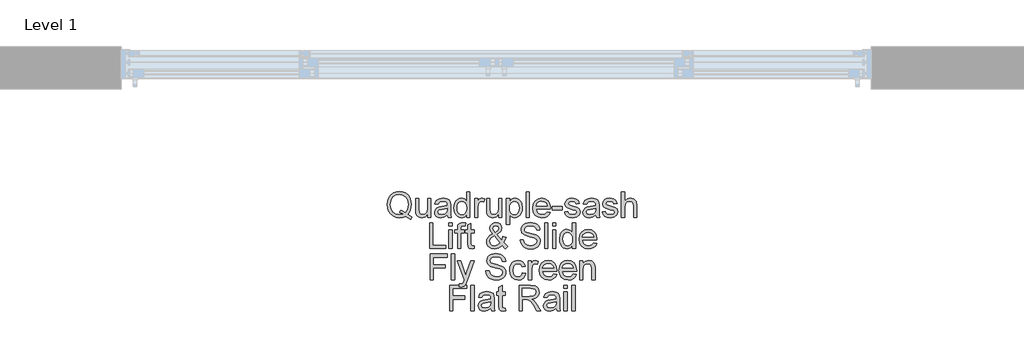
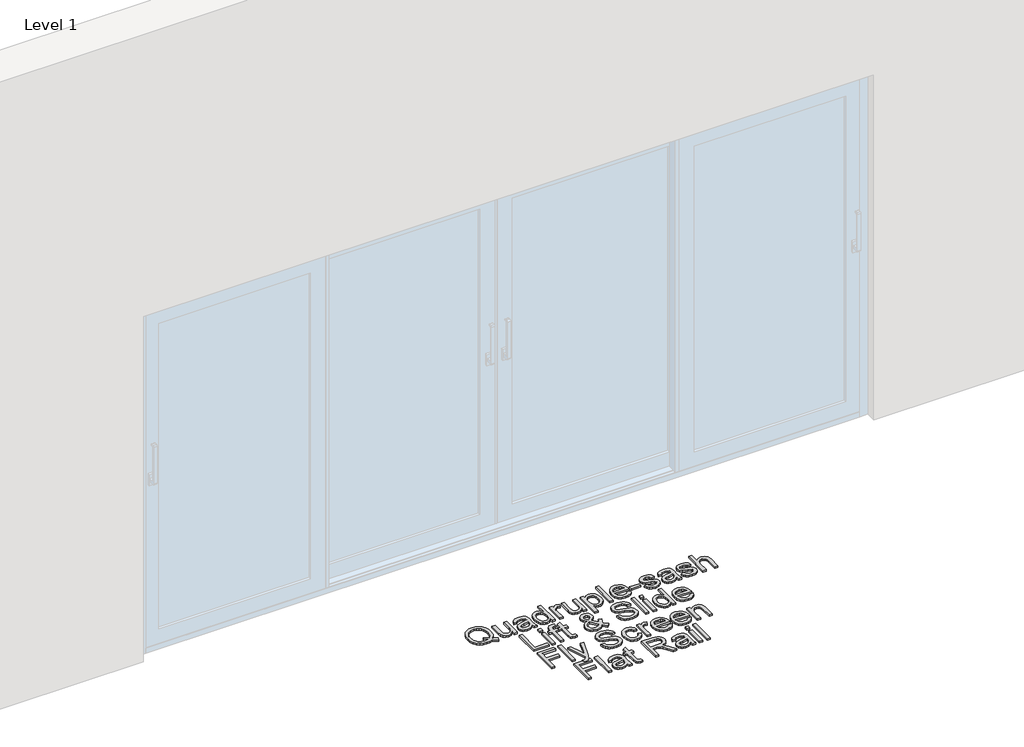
# One storey, part 5 of 11: 1 proxy.
"""IFC4 building model written with IfcOpenShell, lengths in millimetres."""

import ifcopenshell
import ifcopenshell.guid

model = None  # the IFC model being written
_history = None  # IfcOwnerHistory: only IFC2X3 demands one
_inside = {}  # id of a spatial element -> (the spatial element, [elements in it])
_under = {}  # id of a project, library or spatial element -> (it, [spatial elements below it])
_declared = {}  # id of a project -> (the project, [libraries it declares])
_typed = {}  # id of a type object -> (the type object, [elements of that type])
_made_of = {}  # id of a material, layer set ... -> (it, [elements and type objects made of it])


def new_model(schema):
    """Start an empty IFC model of exactly this schema.

    Asked for "IFC4X3", IfcOpenShell would pick the latest addendum, in which some entities
    have other attributes; the version numbers below select the first issue.
    IFC2X3 requires an IfcOwnerHistory on every rooted entity: one is made here for all.
    """
    global model, _history
    if schema == "IFC4X3":
        model = ifcopenshell.file(schema_version=(4, 3, 0, 0))
    else:
        model = ifcopenshell.file(schema=schema)
    _inside.clear()
    _under.clear()
    _declared.clear()
    _typed.clear()
    _made_of.clear()
    _history = None
    if model.schema == "IFC2X3":
        org = make("IfcOrganization", Name="unknown")
        user = make(
            "IfcPersonAndOrganization",
            ThePerson=make("IfcPerson", FamilyName="unknown"),
            TheOrganization=org,
        )
        app = make(
            "IfcApplication",
            ApplicationDeveloper=org,
            Version="unknown",
            ApplicationFullName="unknown",
            ApplicationIdentifier="unknown",
        )
        _history = make(
            "IfcOwnerHistory",
            OwningUser=user,
            OwningApplication=app,
            ChangeAction="ADDED",
            CreationDate=0,
        )
    return model


def make(cls, **values):
    """One entity of the class cls with the attributes given. An attribute that is None is left unset."""
    return model.create_entity(
        cls, **{name: value for name, value in values.items() if value is not None}
    )


def rooted(cls, **values):
    """An entity with a GlobalId (a new one), such as an element, a storey or a relation."""
    return make(cls, GlobalId=ifcopenshell.guid.new(), OwnerHistory=_history, **values)


def si_unit(unit_type, name, prefix=None):
    """IfcSIUnit, for example si_unit("LENGTHUNIT", "METRE", prefix="MILLI")."""
    return make("IfcSIUnit", UnitType=unit_type, Prefix=prefix, Name=name)


def assignment(units):
    """IfcUnitAssignment: the units of a project."""
    return None if units is None else make("IfcUnitAssignment", Units=units)


def point(xyz):
    """IfcCartesianPoint."""
    return None if xyz is None else make("IfcCartesianPoint", Coordinates=xyz)


def direction(xyz):
    """IfcDirection."""
    return None if xyz is None else make("IfcDirection", DirectionRatios=xyz)


def frame(location, z_axis=None, x_axis=None):
    """IfcAxis2Placement3D, a coordinate frame: its origin and axes. An axis left out is left unset."""
    return make(
        "IfcAxis2Placement3D",
        Location=point(location),
        Axis=direction(z_axis),
        RefDirection=direction(x_axis),
    )


def origin():
    """The frame at (0, 0, 0) with its axes left unset."""
    return frame((0.0, 0.0, 0.0))


def origin_with_axes():
    """The frame at (0, 0, 0) with the z axis (0, 0, 1) and the x axis (1, 0, 0) written out."""
    return frame((0.0, 0.0, 0.0), z_axis=(0.0, 0.0, 1.0), x_axis=(1.0, 0.0, 0.0))


def place(relative_to, where):
    """IfcLocalPlacement: puts the frame where relative to a parent placement (None: the world)."""
    return make(
        "IfcLocalPlacement", PlacementRelTo=relative_to, RelativePlacement=where
    )


def context(
    kind, dimensions, precision=None, world=None, true_north=None, identifier=None
):
    """IfcGeometricRepresentationContext, for example the 3D "Model" context."""
    return make(
        "IfcGeometricRepresentationContext",
        ContextIdentifier=identifier,
        ContextType=kind,
        CoordinateSpaceDimension=dimensions,
        Precision=precision,
        WorldCoordinateSystem=world,
        TrueNorth=true_north,
    )


def project(units=None, contexts=None):
    """IfcProject with its units and contexts."""
    return rooted(
        "IfcProject",
        Name="project",
        RepresentationContexts=contexts,
        UnitsInContext=assignment(units),
    )


def spatial(cls, under=None, at=None, **own):
    """A site, building, storey or space (cls), placed at a placement, below another one or the project."""
    s = rooted(cls, ObjectPlacement=at, **own)
    if under is not None:
        _under.setdefault(under.id(), (under, []))[1].append(s)
    return s


def polyline(points):
    """IfcPolyline through the points."""
    return make("IfcPolyline", Points=[point(p) for p in points])


def outline(outer, holes=None, kind="AREA"):
    """IfcArbitraryClosedProfileDef: a profile drawn as a closed curve; with holes, ...WithVoids."""
    if holes is None:
        return make("IfcArbitraryClosedProfileDef", ProfileType=kind, OuterCurve=outer)
    return make(
        "IfcArbitraryProfileDefWithVoids",
        ProfileType=kind,
        OuterCurve=outer,
        InnerCurves=holes,
    )


def extrude(swept, where, along, depth):
    """IfcExtrudedAreaSolid: the profile swept, set in the frame where, extruded along a direction by depth."""
    return make(
        "IfcExtrudedAreaSolid",
        SweptArea=swept,
        Position=where,
        ExtrudedDirection=direction(along),
        Depth=depth,
    )


def shape(context_of_items, identifier, shape_type, items):
    """IfcShapeRepresentation: the items that make up one representation, for example the "Body"."""
    return make(
        "IfcShapeRepresentation",
        ContextOfItems=context_of_items,
        RepresentationIdentifier=identifier,
        RepresentationType=shape_type,
        Items=items,
    )


def made_of(thing, what):
    """Note that an element or type object is made of a material, layer set ...; save() writes the relation."""
    if what is not None:
        _made_of.setdefault(what.id(), (what, []))[1].append(thing)
    return thing


def element(
    cls,
    number,
    at=None,
    inside=None,
    cuts=None,
    type_object=None,
    material=None,
    context=None,
    identifier="Body",
    shape_type=None,
    held_by="IfcProductDefinitionShape",
    body=None,
    shapes=None,
    **own,
):
    """One element of the class cls, such as IfcWall. Its Tag is "e" and its number.

    at: its placement. inside: the storey or other place that contains it. cuts: it is an
    opening in that element (IfcRelVoidsElement). A single representation is given by context,
    identifier, shape_type and body (its items); several are given by shapes. held_by: the class
    of the entity that holds the representations. save() writes the other relations.
    """
    e = rooted(cls, Tag="e%d" % number, ObjectPlacement=at, **own)
    if body is not None:
        shapes = [shape(context, identifier, shape_type, body)]
    if shapes is not None:
        e.Representation = make(held_by, Representations=shapes)
    if inside is not None:
        _inside.setdefault(inside.id(), (inside, []))[1].append(e)
    if cuts is not None:
        rooted(
            "IfcRelVoidsElement", RelatingBuildingElement=cuts, RelatedOpeningElement=e
        )
    if type_object is not None:
        _typed.setdefault(type_object.id(), (type_object, []))[1].append(e)
    return made_of(e, material)


def aggregate(whole, parts):
    """IfcRelAggregates: a whole, such as a stair, and the parts it consists of."""
    return rooted("IfcRelAggregates", RelatingObject=whole, RelatedObjects=parts)


def save(model, path):
    """Write the relations noted so far, then the file.

    IfcRelAggregates (storeys below a building ...), IfcRelContainedInSpatialStructure (elements
    in a storey), IfcRelDefinesByType, IfcRelAssociatesMaterial and IfcRelDeclares: one each for
    every whole, place, type object, material and project.
    """
    for whole, parts in _under.values():
        aggregate(whole, parts)
    for where, things in _inside.values():
        rooted(
            "IfcRelContainedInSpatialStructure",
            RelatedElements=things,
            RelatingStructure=where,
        )
    for kind, things in _typed.values():
        rooted("IfcRelDefinesByType", RelatedObjects=things, RelatingType=kind)
    for what, things in _made_of.values():
        rooted("IfcRelAssociatesMaterial", RelatedObjects=things, RelatingMaterial=what)
    for by, libraries in _declared.values():
        rooted("IfcRelDeclares", RelatingContext=by, RelatedDefinitions=libraries)
    model.write(path)


model = new_model("IFC4")

# Units and contexts
model_context = context("Model", 3, world=origin())
ifc_project = project(units=[si_unit("LENGTHUNIT", "METRE", prefix="MILLI")], contexts=[model_context])

# Site, building, storey
site = spatial("IfcSite", under=ifc_project)
building = spatial("IfcBuilding", under=site)
storey = spatial("IfcBuildingStorey", under=building, Name="Level 1", Elevation=0.0)

# Proxy
placement = place(None, origin())
element("IfcBuildingElementProxy", 1, Name="150mm Arial", ObjectType="150mm Arial", at=placement, inside=storey, context=model_context, shape_type="SweptSolid", body=[
    extrude(outline(polyline([(1259.3241759, -5879.5997474), (1282.6846826, -5895.3083086), (1277.6079111, -5909.1038834), (1246.5954589, -5891.4823358), (1229.1670494, -5897.8834825), (1209.9912004, -5900.0171981), (1190.7233809, -5897.5569873), (1173.3133655, -5890.1763547), (1158.7314429, -5878.3397515), (1147.9479019, -5862.5116287), (1141.2846392, -5843.5611074), (1139.0635517, -5822.3573089), (1141.2800407, -5801.1351163), (1147.9295078, -5781.9086836), (1158.671662, -5765.855233), (1173.1662127, -5754.151987), (1190.5118487, -5747.0058793), (1209.8072594, -5744.6238433), (1229.2544213, -5747.0610616), (1246.6874294, -5754.3727162), (1261.1589874, -5766.0713637), (1271.7217992, -5781.6695603), (1278.1781282, -5800.3395715), (1280.3302379, -5821.2536629), (1275.1063135, -5854.1791015), (1268.548817, -5867.8367206), (1259.3241759, -5879.5997474)]), holes=[polyline([(1215.1783365, -5854.5469835), (1231.0156564, -5860.534263), (1243.7995557, -5868.8575931), (1257.0708987, -5849.4334238), (1261.4946797, -5822.2101561), (1259.9311812, -5805.6324737), (1255.2406858, -5791.2896744), (1247.5381565, -5779.5450417), (1236.9385565, -5770.7618591), (1224.1592557, -5765.2850159), (1209.917624, -5763.4594015), (1189.3898086, -5767.152017), (1172.6879661, -5778.2298636), (1161.5963239, -5796.6377589), (1157.8991099, -5822.3205207), (1161.5549372, -5847.4514595), (1172.5224192, -5865.9697195), (1189.173678, -5877.3786598), (1209.8808358, -5881.18164), (1230.1511337, -5877.318879), (1210.3222942, -5868.9679577), (1215.1783365, -5854.5469835)])]), origin_with_axes(), (0.0, 0.0, 1.0), 10.0),
    extrude(outline(polyline([(1376.8624734, -5897.6627533), (1376.8624734, -5878.6432542), (1362.1104054, -5894.6737121), (1342.870177, -5900.0171981), (1325.156659, -5896.2648018), (1312.9429767, -5886.8470227), (1307.3327763, -5872.9778715), (1306.2291303, -5855.4666885), (1306.2291303, -5787.0038492), (1325.0646885, -5787.0038492), (1325.0646885, -5846.6007324), (1326.2051227, -5865.8041726), (1333.6547331, -5877.0797557), (1347.6894312, -5881.18164), (1363.4163865, -5876.9877852), (1373.8090528, -5865.5650493), (1376.8624734, -5844.5773814), (1376.8624734, -5787.0038492), (1395.6980315, -5787.0038492), (1395.6980315, -5897.6627533), (1376.8624734, -5897.6627533)])), origin_with_axes(), (0.0, 0.0, 1.0), 10.0),
    extrude(outline(polyline([(1492.2302671, -5883.5360847), (1473.964926, -5896.30159), (1453.7865986, -5900.0171981), (1438.0458477, -5897.782315), (1426.4345722, -5891.0776656), (1419.2746689, -5880.8965314), (1416.8880345, -5868.2321937), (1420.493278, -5853.3329729), (1429.9662394, -5842.5172423), (1443.1548089, -5836.3368247), (1459.4519813, -5833.5041334), (1492.1199025, -5827.0294103), (1492.2302671, -5822.8355555), (1490.933483, -5814.4294519), (1487.0431309, -5808.9296161), (1478.3427218, -5804.846126), (1466.22101, -5803.4849626), (1447.1647227, -5807.1086002), (1438.0780374, -5819.966076), (1419.2424792, -5817.6116312), (1427.3910654, -5799.2175314), (1443.7986024, -5788.438589), (1468.6490312, -5784.6494044), (1491.476109, -5787.9971306), (1504.3703729, -5796.4032342), (1510.1461202, -5809.1871335), (1511.0658252, -5825.6682469), (1511.0658252, -5849.10233), (1512.0223184, -5881.8254334), (1515.7747148, -5897.6627533), (1496.9391566, -5897.6627533), (1492.2302671, -5883.5360847)]), holes=[polyline([(1492.2302671, -5845.8649684), (1461.8432143, -5851.6407157), (1445.6380124, -5854.6941363), (1438.2987666, -5859.6605432), (1435.7235926, -5866.9078185), (1441.333793, -5877.0981498), (1457.7965123, -5881.18164), (1476.8527997, -5876.6750855), (1489.1400583, -5865.7673844), (1492.1199025, -5851.1992574), (1492.2302671, -5845.8649684)])]), origin_with_axes(), (0.0, 0.0, 1.0), 10.0),
    extrude(outline(polyline([(1605.243616, -5897.6627533), (1605.243616, -5879.894053), (1592.7816134, -5894.9864118), (1575.555539, -5900.0171981), (1563.3786449, -5898.1961822), (1552.2318205, -5892.7331346), (1542.7956473, -5884.0097328), (1535.7507071, -5872.4076544), (1531.3637143, -5858.3959489), (1529.9013834, -5842.4436659), (1535.2908546, -5812.4612833), (1542.0230951, -5800.5694978), (1551.4408742, -5791.8231033), (1562.8314205, -5786.4428292), (1575.4819626, -5784.6494044), (1592.8459928, -5789.7813583), (1605.243616, -5803.1170806), (1605.243616, -5746.9782881), (1624.0791741, -5746.9782881), (1624.0791741, -5897.6627533), (1605.243616, -5897.6627533)]), holes=[polyline([(1548.7369415, -5842.3700895), (1550.8614601, -5859.4076244), (1557.2350156, -5871.5247376), (1566.4964449, -5878.7674144), (1577.2845844, -5881.18164), (1588.0681253, -5878.877779), (1597.0950298, -5871.966196), (1603.2064694, -5860.3181323), (1605.243616, -5843.8048292), (1603.1696812, -5825.7510203), (1596.947877, -5813.2338354), (1587.6910463, -5805.9221808), (1576.5120322, -5803.4849626), (1565.6135281, -5805.8256118), (1556.6831926, -5812.8475594), (1550.7235043, -5824.9094903), (1548.7369415, -5842.3700895)])]), origin_with_axes(), (0.0, 0.0, 1.0), 10.0),
    extrude(outline(polyline([(1652.3325114, -5897.6627533), (1652.3325114, -5787.0038492), (1668.8136248, -5787.0038492), (1668.8136248, -5803.374598), (1680.5122722, -5788.2914362), (1692.2844961, -5784.6494044), (1711.1936306, -5790.4619399), (1704.9028485, -5807.3477235), (1691.6590967, -5803.4849626), (1681.0089129, -5807.2005707), (1674.2214901, -5817.5012666), (1671.1680695, -5839.5006099), (1671.1680695, -5897.6627533), (1652.3325114, -5897.6627533)])), origin_with_axes(), (0.0, 0.0, 1.0), 10.0),
    extrude(outline(polyline([(1793.5991975, -5897.6627533), (1793.5991975, -5878.6432542), (1778.8471295, -5894.6737121), (1759.6069012, -5900.0171981), (1741.8933831, -5896.2648018), (1729.6797009, -5886.8470227), (1724.0695004, -5872.9778715), (1722.9658544, -5855.4666885), (1722.9658544, -5787.0038492), (1741.8014126, -5787.0038492), (1741.8014126, -5846.6007324), (1742.9418468, -5865.8041726), (1750.3914572, -5877.0797557), (1764.4261553, -5881.18164), (1780.1531106, -5876.9877852), (1790.545777, -5865.5650493), (1793.5991975, -5844.5773814), (1793.5991975, -5787.0038492), (1812.4347557, -5787.0038492), (1812.4347557, -5897.6627533), (1793.5991975, -5897.6627533)])), origin_with_axes(), (0.0, 0.0, 1.0), 10.0),
    extrude(outline(polyline([(1838.3336481, -5940.0427592), (1838.3336481, -5787.0038492), (1857.1692063, -5787.0038492), (1857.1692063, -5805.4715254), (1870.1922289, -5789.8549347), (1887.7769883, -5784.6494044), (1900.5149024, -5786.4704203), (1911.6525298, -5791.9334679), (1920.720821, -5800.7074535), (1927.2507264, -5812.4612833), (1932.5114389, -5841.4871727), (1931.0261153, -5857.5958055), (1926.5701447, -5872.0029842), (1919.2860812, -5883.9775431), (1909.3164791, -5892.7883169), (1897.7052036, -5898.2099778), (1885.4961199, -5900.0171981), (1869.106977, -5895.1795499), (1857.1692063, -5882.9474735), (1857.1692063, -5940.0427592), (1838.3336481, -5940.0427592)]), holes=[polyline([(1857.1692063, -5843.2162181), (1859.2063528, -5860.1020016), (1865.3177925, -5871.9110137), (1874.3354999, -5878.8639834), (1885.0914497, -5881.18164), (1896.0221435, -5878.7812099), (1905.2697772, -5871.5799199), (1911.5743549, -5859.3386465), (1913.6758807, -5841.8182665), (1911.6249386, -5825.0244534), (1905.4721123, -5813.0498945), (1896.4682004, -5805.8761955), (1885.8640019, -5803.4849626), (1875.2184167, -5806.0279469), (1865.8696155, -5813.6568997), (1859.3443086, -5826.1326979), (1857.1692063, -5843.2162181)])]), origin_with_axes(), (0.0, 0.0, 1.0), 10.0),
    extrude(outline(polyline([(1953.7014418, -5897.6627533), (1953.7014418, -5746.9782881), (1972.537, -5746.9782881), (1972.537, -5897.6627533), (1953.7014418, -5897.6627533)])), origin_with_axes(), (0.0, 0.0, 1.0), 10.0),
    extrude(outline(polyline([(2078.2662854, -5864.7005266), (2096.7339615, -5867.0549713), (2090.079896, -5880.9701078), (2079.4619019, -5891.3719712), (2065.1191026, -5897.8558914), (2047.2906214, -5900.0171981), (2025.1901105, -5896.2877944), (2008.1847653, -5885.0995832), (1997.3414435, -5867.1791315), (1993.7270029, -5843.2530063), (1997.3782317, -5818.5221391), (2008.3319181, -5800.0268718), (2025.1073371, -5788.4937713), (2046.2237636, -5784.6494044), (2066.6826011, -5788.4845742), (2083.0303572, -5799.9900836), (2093.7495189, -5818.4485627), (2097.3225727, -5843.1426417), (2097.2122081, -5848.2194132), (2012.5625611, -5848.2194132), (2015.8229152, -5862.3184907), (2023.3966858, -5872.6835659), (2034.3273796, -5879.0571214), (2047.6585034, -5881.18164), (2066.1261795, -5877.2453026), (2078.2662854, -5864.7005266)]), holes=[polyline([(2012.5625611, -5829.383855), (2078.4870146, -5829.383855), (2075.9394318, -5819.4326471), (2070.9454337, -5812.3141305), (2059.9641561, -5805.6922545), (2046.1501872, -5803.4849626), (2033.4536599, -5805.2461976), (2022.9552274, -5810.5299028), (2015.6573683, -5818.765861), (2012.5625611, -5829.383855)])]), origin_with_axes(), (0.0, 0.0, 1.0), 10.0),
    extrude(outline(polyline([(2106.7403518, -5852.9283027), (2106.7403518, -5834.0927446), (2165.601471, -5834.0927446), (2165.601471, -5852.9283027), (2106.7403518, -5852.9283027)])), origin_with_axes(), (0.0, 0.0, 1.0), 10.0),
    extrude(outline(polyline([(2179.7281397, -5864.7005266), (2198.5636978, -5862.3460818), (2201.5343449, -5870.4026975), (2207.2825011, -5876.3255976), (2227.2584934, -5881.18164), (2246.4619336, -5876.7302678), (2252.7159275, -5866.2824192), (2251.143232, -5861.4815591), (2246.4251454, -5857.8211333), (2227.0377642, -5852.4500561), (2198.6740624, -5843.2346122), (2186.2948333, -5832.4740638), (2182.0825844, -5817.2805374), (2185.4670988, -5803.2458393), (2194.7009369, -5792.5220791), (2206.6754958, -5786.9486669), (2222.8806977, -5784.6494044), (2245.799746, -5788.3466185), (2260.367873, -5798.3530087), (2266.8425961, -5815.2571864), (2248.007038, -5817.6116312), (2240.9253096, -5807.2189648), (2224.3522257, -5803.4849626), (2206.3260079, -5807.0534179), (2200.9181426, -5815.367551), (2203.1622228, -5820.8489927), (2210.1887689, -5825.0060593), (2226.4123648, -5829.015973), (2254.0586968, -5837.8819291), (2266.8977784, -5847.9251076), (2271.5514857, -5864.2958564), (2266.088438, -5882.3220741), (2250.3246945, -5895.4002791), (2227.000976, -5900.0171981), (2208.009068, -5897.791512), (2194.1491139, -5891.1144538), (2184.8968817, -5880.0595999), (2179.7281397, -5864.7005266)])), origin_with_axes(), (0.0, 0.0, 1.0), 10.0),
    extrude(outline(polyline([(2363.3748317, -5883.5360847), (2345.1094906, -5896.30159), (2324.9311632, -5900.0171981), (2309.1904123, -5897.782315), (2297.5791368, -5891.0776656), (2290.4192335, -5880.8965314), (2288.032599, -5868.2321937), (2291.6378426, -5853.3329729), (2301.110804, -5842.5172423), (2314.2993735, -5836.3368247), (2330.5965459, -5833.5041334), (2363.2644671, -5827.0294103), (2363.3748317, -5822.8355555), (2362.0780476, -5814.4294519), (2358.1876955, -5808.9296161), (2349.4872863, -5804.846126), (2337.3655746, -5803.4849626), (2318.3092872, -5807.1086002), (2309.222602, -5819.966076), (2290.3870438, -5817.6116312), (2298.53563, -5799.2175314), (2314.943167, -5788.438589), (2339.7935958, -5784.6494044), (2362.6206736, -5787.9971306), (2375.5149375, -5796.4032342), (2381.2906848, -5809.1871335), (2382.2103898, -5825.6682469), (2382.2103898, -5849.10233), (2383.166883, -5881.8254334), (2386.9192793, -5897.6627533), (2368.0837212, -5897.6627533), (2363.3748317, -5883.5360847)]), holes=[polyline([(2363.3748317, -5845.8649684), (2332.9877789, -5851.6407157), (2316.782577, -5854.6941363), (2309.4433312, -5859.6605432), (2306.8681572, -5866.9078185), (2312.4783576, -5877.0981498), (2328.9410769, -5881.18164), (2347.9973643, -5876.6750855), (2360.2846229, -5865.7673844), (2363.2644671, -5851.1992574), (2363.3748317, -5845.8649684)])]), origin_with_axes(), (0.0, 0.0, 1.0), 10.0),
    extrude(outline(polyline([(2401.045948, -5864.7005266), (2419.8815061, -5862.3460818), (2422.8521532, -5870.4026975), (2428.6003094, -5876.3255976), (2448.5763017, -5881.18164), (2467.7797419, -5876.7302678), (2474.0337358, -5866.2824192), (2472.4610403, -5861.4815591), (2467.7429537, -5857.8211333), (2448.3555725, -5852.4500561), (2419.9918707, -5843.2346122), (2407.6126416, -5832.4740638), (2403.4003927, -5817.2805374), (2406.7849071, -5803.2458393), (2416.0187452, -5792.5220791), (2427.9933041, -5786.9486669), (2444.198506, -5784.6494044), (2467.1175543, -5788.3466185), (2481.6856813, -5798.3530087), (2488.1604044, -5815.2571864), (2469.3248463, -5817.6116312), (2462.2431179, -5807.2189648), (2445.670034, -5803.4849626), (2427.6438162, -5807.0534179), (2422.2359509, -5815.367551), (2424.4800311, -5820.8489927), (2431.5065772, -5825.0060593), (2447.7301731, -5829.015973), (2475.3765051, -5837.8819291), (2488.2155867, -5847.9251076), (2492.869294, -5864.2958564), (2487.4062463, -5882.3220741), (2471.6425028, -5895.4002791), (2448.3187843, -5900.0171981), (2429.3268763, -5897.791512), (2415.4669222, -5891.1144538), (2406.21469, -5880.0595999), (2401.045948, -5864.7005266)])), origin_with_axes(), (0.0, 0.0, 1.0), 10.0),
    extrude(outline(polyline([(2514.0592969, -5897.6627533), (2514.0592969, -5746.9782881), (2532.894855, -5746.9782881), (2532.894855, -5802.3813166), (2547.5825437, -5789.0823825), (2565.6731408, -5784.6494044), (2586.8263555, -5789.4870527), (2599.6654372, -5802.8595632), (2603.5281981, -5827.6180215), (2603.5281981, -5897.6627533), (2584.69264, -5897.6627533), (2584.69264, -5829.567796), (2583.1935208, -5817.7771781), (2578.6961634, -5809.7021683), (2571.4488881, -5805.039264), (2561.7000153, -5803.4849626), (2546.2673656, -5807.6788173), (2535.9666697, -5819.046371), (2532.894855, -5838.8752105), (2532.894855, -5897.6627533), (2514.0592969, -5897.6627533)])), origin_with_axes(), (0.0, 0.0, 1.0), 10.0),
    extrude(outline(polyline([(1387.4574748, -6080.6249801), (1387.4574748, -5929.9405149), (1406.293033, -5929.9405149), (1406.293033, -6061.789422), (1481.6352656, -6061.789422), (1481.6352656, -6080.6249801), (1387.4574748, -6080.6249801)])), origin_with_axes(), (0.0, 0.0, 1.0), 10.0),
    extrude(outline(polyline([(1500.4708238, -5948.776073), (1500.4708238, -5929.9405149), (1519.3063819, -5929.9405149), (1519.3063819, -5948.776073), (1500.4708238, -5948.776073)])), origin_with_axes(), (0.0, 0.0, 1.0), 10.0),
    extrude(outline(polyline([(1500.4708238, -6080.6249801), (1500.4708238, -5969.966076), (1519.3063819, -5969.966076), (1519.3063819, -6080.6249801), (1500.4708238, -6080.6249801)])), origin_with_axes(), (0.0, 0.0, 1.0), 10.0),
    extrude(outline(polyline([(1648.8008442, -6064.9164189), (1651.155289, -6081.1768031), (1637.0654086, -6082.9794249), (1621.283271, -6079.8524279), (1613.4105963, -6071.6486594), (1611.1297279, -6050.2747155), (1611.1297279, -5988.8016341), (1597.0030593, -5988.8016341), (1597.0030593, -5969.966076), (1611.1297279, -5969.966076), (1611.1297279, -5943.0739021), (1629.9652861, -5932.0006541), (1629.9652861, -5969.966076), (1648.8008442, -5969.966076), (1648.8008442, -5988.8016341), (1629.9652861, -5988.8016341), (1629.9652861, -6049.7228925), (1630.9585675, -6059.4349772), (1634.1775349, -6062.8746738), (1640.5970757, -6064.1438667), (1648.8008442, -6064.9164189)])), origin_with_axes(), (0.0, 0.0, 1.0), 10.0),
    extrude(outline(polyline([(1552.2686087, -6080.6249801), (1552.2686087, -5988.8016341), (1535.7874953, -5988.8016341), (1535.7874953, -5969.966076), (1552.2686087, -5969.966076), (1552.2686087, -5958.8192515), (1554.2551715, -5943.1106903), (1563.8936797, -5931.8902895), (1582.8763907, -5927.5860701), (1600.0564799, -5929.6462093), (1597.2973649, -5947.3045451), (1586.444846, -5946.4216283), (1574.5806517, -5949.5486252), (1571.1041668, -5961.2104845), (1571.1041668, -5969.966076), (1592.2941698, -5969.966076), (1592.2941698, -5988.8016341), (1571.1041668, -5988.8016341), (1571.1041668, -6080.6249801), (1552.2686087, -6080.6249801)])), origin_with_axes(), (0.0, 0.0, 1.0), 10.0),
    extrude(outline(polyline([(1812.9130023, -6062.0101512), (1792.9370099, -6077.7371064), (1769.5765032, -6082.9794249), (1748.7911705, -6079.0982698), (1732.7883037, -6067.4548047), (1724.53855, -6054.054703), (1721.7886321, -6039.1646793), (1724.0005226, -6025.9669127), (1730.636194, -6014.1119154), (1741.6680554, -6003.6088844), (1757.0685154, -5994.4670168), (1743.9167341, -5975.4107295), (1740.6241902, -5961.2840609), (1743.2177583, -5948.5645409), (1750.9984625, -5937.6292486), (1762.706307, -5930.0968647), (1777.0812959, -5927.5860701), (1790.7573091, -5929.9865001), (1801.6926014, -5937.1877902), (1808.8663003, -5947.7552005), (1811.2575333, -5960.2539913), (1809.4871012, -5970.7478252), (1804.1758049, -5980.4507128), (1782.9306197, -5997.4836492), (1810.1906755, -6031.4391574), (1818.3208676, -6010.5802482), (1837.1564258, -6014.6637384), (1823.8390975, -6045.6761906), (1846.5742048, -6068.4848743), (1832.4475362, -6082.9794249), (1812.9130023, -6062.0101512)]), holes=[polyline([(1773.402476, -5985.6010608), (1788.890308, -5973.9208074), (1792.4219751, -5962.8291653), (1787.7682679, -5951.0017591), (1776.1248028, -5946.4216283), (1764.2238202, -5950.9649709), (1759.4597484, -5962.0566131), (1761.0784291, -5968.9544005), (1765.9712597, -5976.6247401), (1773.402476, -5985.6010608)]), polyline([(1800.2946498, -6048.4353055), (1766.6702355, -6006.4599699), (1745.9768732, -6022.2421075), (1740.6241902, -6036.6630817), (1742.4544031, -6045.5474319), (1747.9450419, -6054.7628758), (1756.7926039, -6061.798619), (1768.6935864, -6064.1438667), (1786.0024343, -6059.766071), (1800.2946498, -6048.4353055)])]), origin_with_axes(), (0.0, 0.0, 1.0), 10.0),
    extrude(outline(polyline([(1919.5619927, -6028.8271952), (1938.3975508, -6028.8271952), (1944.4676037, -6047.6811474), (1959.2932482, -6059.6005241), (1981.8812027, -6064.1438667), (2001.5628894, -6060.7041701), (2014.2732123, -6051.2496028), (2018.448673, -6038.6128563), (2015.321676, -6026.8590265), (2002.5193826, -6018.3057701), (1975.0937798, -6011.1136771), (1945.5712497, -6001.8246567), (1929.5499888, -5987.8083527), (1924.2708822, -5969.0831592), (1925.9033586, -5958.0512978), (1930.8007876, -5947.7643976), (1938.8344107, -5939.0455943), (1949.8754691, -5932.7180239), (1977.7977125, -5927.5860701), (2007.5961541, -5932.9571472), (2019.0188901, -5939.5882202), (2027.4617819, -5948.7392848), (2032.8052678, -5959.840124), (2034.9297864, -5972.3205207), (2016.0942282, -5972.3205207), (2012.6361375, -5961.0817258), (2005.4256503, -5952.9699278), (1994.1592642, -5948.0587031), (1978.5334765, -5946.4216283), (1962.5398068, -5948.040309), (1951.5677263, -5952.8963514), (1945.2217618, -5960.0424591), (1943.1064404, -5968.5313362), (1944.6055595, -5975.7694144), (1949.1029169, -5981.591147), (1979.8578517, -5992.1125721), (2013.1879604, -6001.5671393), (2023.9255162, -6008.4005474), (2031.4165133, -6016.8342421), (2035.8173017, -6026.7762531), (2037.2842311, -6038.1346097), (2035.5965725, -6049.7458851), (2030.5335965, -6060.6673819), (2022.3022369, -6070.0667668), (2011.1094272, -6077.1117071), (1997.6495447, -6081.5124954), (1982.6169666, -6082.9794249), (1964.1630861, -6081.3975323), (1948.9741582, -6076.6518546), (1936.8754391, -6068.7239976), (1927.6921848, -6057.5955672), (1921.7968758, -6044.0391157), (1919.5619927, -6028.8271952)])), origin_with_axes(), (0.0, 0.0, 1.0), 10.0),
    extrude(outline(polyline([(2063.1831236, -6080.6249801), (2063.1831236, -5929.9405149), (2082.0186817, -5929.9405149), (2082.0186817, -6080.6249801), (2063.1831236, -6080.6249801)])), origin_with_axes(), (0.0, 0.0, 1.0), 10.0),
    extrude(outline(polyline([(2110.272019, -5948.776073), (2110.272019, -5929.9405149), (2129.1075771, -5929.9405149), (2129.1075771, -5948.776073), (2110.272019, -5948.776073)])), origin_with_axes(), (0.0, 0.0, 1.0), 10.0),
    extrude(outline(polyline([(2110.272019, -6080.6249801), (2110.272019, -5969.966076), (2129.1075771, -5969.966076), (2129.1075771, -6080.6249801), (2110.272019, -6080.6249801)])), origin_with_axes(), (0.0, 0.0, 1.0), 10.0),
    extrude(outline(polyline([(2225.6398127, -6080.6249801), (2225.6398127, -6062.8562797), (2213.1778101, -6077.9486386), (2195.9517356, -6082.9794249), (2183.7748416, -6081.158409), (2172.6280172, -6075.6953614), (2163.191844, -6066.9719596), (2156.1469038, -6055.3698811), (2151.759911, -6041.3581756), (2150.29758, -6025.4058926), (2155.6870513, -5995.42351), (2162.4192918, -5983.5317245), (2171.8370709, -5974.7853301), (2183.2276171, -5969.4050559), (2195.8781592, -5967.6116312), (2213.2421894, -5972.743585), (2225.6398127, -5986.0793073), (2225.6398127, -5929.9405149), (2244.4753708, -5929.9405149), (2244.4753708, -6080.6249801), (2225.6398127, -6080.6249801)]), holes=[polyline([(2169.1331382, -6025.3323162), (2171.2576567, -6042.3698511), (2177.6312123, -6054.4869644), (2186.8926415, -6061.7296411), (2197.680781, -6064.1438667), (2208.464322, -6061.8400057), (2217.4912265, -6054.9284227), (2223.6026661, -6043.2803591), (2225.6398127, -6026.767056), (2223.5658779, -6008.7132471), (2217.3440737, -5996.1960622), (2208.087243, -5988.8844076), (2196.9082288, -5986.4471893), (2186.0097247, -5988.7878385), (2177.0793893, -5995.8097861), (2171.119701, -6007.871717), (2169.1331382, -6025.3323162)])]), origin_with_axes(), (0.0, 0.0, 1.0), 10.0),
    extrude(outline(polyline([(2350.2046562, -6047.6627533), (2368.6723324, -6050.0171981), (2362.0182668, -6063.9323346), (2351.4002727, -6074.334198), (2337.0574734, -6080.8181182), (2319.2289922, -6082.9794249), (2297.1284814, -6079.2500212), (2280.1231361, -6068.06181), (2269.2798143, -6050.1413583), (2265.6653737, -6026.215233), (2269.3166025, -6001.4843659), (2280.2702889, -5982.9890986), (2297.0457079, -5971.455998), (2318.1621344, -5967.6116312), (2338.6209719, -5971.446801), (2354.9687281, -5982.9523104), (2365.6878897, -6001.4107895), (2369.2609436, -6026.1048684), (2369.150579, -6031.18164), (2284.5009319, -6031.18164), (2287.7612861, -6045.2807174), (2295.3350566, -6055.6457926), (2306.2657504, -6062.0193482), (2319.5968742, -6064.1438667), (2338.0645504, -6060.2075294), (2350.2046562, -6047.6627533)]), holes=[polyline([(2284.5009319, -6012.3460818), (2350.4253854, -6012.3460818), (2347.8778026, -6002.3948738), (2342.8838045, -5995.2763572), (2331.902527, -5988.6544813), (2318.088558, -5986.4471893), (2305.3920307, -5988.2084244), (2294.8935983, -5993.4921296), (2287.5957392, -6001.7280877), (2284.5009319, -6012.3460818)])]), origin_with_axes(), (0.0, 0.0, 1.0), 10.0),
    extrude(outline(polyline([(1390.989142, -6263.5872069), (1390.989142, -6112.9027417), (1492.2302671, -6112.9027417), (1492.2302671, -6131.7382998), (1409.8247002, -6131.7382998), (1409.8247002, -6176.4727504), (1480.4580432, -6176.4727504), (1480.4580432, -6195.3083086), (1409.8247002, -6195.3083086), (1409.8247002, -6263.5872069), (1390.989142, -6263.5872069)])), origin_with_axes(), (0.0, 0.0, 1.0), 10.0),
    extrude(outline(polyline([(1515.7747148, -6263.5872069), (1515.7747148, -6112.9027417), (1534.6102729, -6112.9027417), (1534.6102729, -6263.5872069), (1515.7747148, -6263.5872069)])), origin_with_axes(), (0.0, 0.0, 1.0), 10.0),
    extrude(outline(polyline([(1562.8636101, -6305.9672127), (1560.5091654, -6287.8306304), (1570.0740973, -6289.4860993), (1579.0136297, -6287.4075661), (1584.4950715, -6281.6134246), (1589.6454194, -6267.7442734), (1591.1169474, -6263.1825367), (1551.0913863, -6152.9283027), (1570.957014, -6152.9283027), (1592.1838052, -6214.3645959), (1599.5782333, -6238.9391132), (1606.9726614, -6217.2340755), (1628.7880637, -6152.9283027), (1648.5065386, -6152.9283027), (1609.9892937, -6266.2359572), (1599.9829035, -6290.8104745), (1589.0568082, -6304.0910145), (1574.3783166, -6308.3216575), (1562.8636101, -6305.9672127)])), origin_with_axes(), (0.0, 0.0, 1.0), 10.0),
    extrude(outline(polyline([(1718.2569649, -6211.789422), (1737.0925231, -6211.789422), (1743.162576, -6230.6433742), (1757.9882204, -6242.5627509), (1780.5761749, -6247.1060935), (1800.2578616, -6243.6663968), (1812.9681846, -6234.2118296), (1817.1436452, -6221.575083), (1814.0166483, -6209.8212533), (1801.2143548, -6201.2679969), (1773.7887521, -6194.0759039), (1744.266222, -6184.7868835), (1728.2449611, -6170.7705795), (1722.9658544, -6152.0453859), (1724.5983308, -6141.0135246), (1729.4957599, -6130.7266243), (1737.5293829, -6122.007821), (1748.5704413, -6115.6802507), (1776.4926847, -6110.5482969), (1806.2911264, -6115.919374), (1817.7138623, -6122.550447), (1826.1567541, -6131.7015116), (1831.5002401, -6142.8023508), (1833.6247586, -6155.2827475), (1814.7892004, -6155.2827475), (1811.3311097, -6144.0439525), (1804.1206226, -6135.9321546), (1792.8542365, -6131.0209299), (1777.2284487, -6129.383855), (1761.234779, -6131.0025358), (1750.2626985, -6135.8585782), (1743.9167341, -6143.0046859), (1741.8014126, -6151.4935629), (1743.3005317, -6158.7316412), (1747.7978891, -6164.5533738), (1778.5528239, -6175.0747988), (1811.8829327, -6184.5293661), (1822.6204884, -6191.3627742), (1830.1114855, -6199.7964689), (1834.5122739, -6209.7384798), (1835.9792034, -6221.0968364), (1834.2915447, -6232.7081119), (1829.2285688, -6243.6296086), (1820.9972091, -6253.0289936), (1809.8043994, -6260.0739338), (1796.3445169, -6264.4747222), (1781.3119389, -6265.9416516), (1762.8580583, -6264.3597591), (1747.6691304, -6259.6140813), (1735.5704113, -6251.6862243), (1726.387157, -6240.557794), (1720.491848, -6227.0013425), (1718.2569649, -6211.789422)])), origin_with_axes(), (0.0, 0.0, 1.0), 10.0),
    extrude(outline(polyline([(1932.5114389, -6223.5616458), (1951.3469971, -6225.9160906), (1946.0954816, -6242.6685169), (1936.2270471, -6255.3282561), (1922.6705955, -6263.2883028), (1906.355029, -6265.9416516), (1886.3192559, -6262.2398391), (1870.6520814, -6251.1344013), (1860.5399251, -6233.1127821), (1857.1692063, -6208.662425), (1858.6085446, -6191.9008016), (1862.9265595, -6177.3740613), (1870.1922289, -6165.6432242), (1880.4745307, -6157.2693103), (1892.7755849, -6152.247721), (1906.0975116, -6150.573858), (1922.0130065, -6152.8731204), (1934.737125, -6159.7709078), (1943.865197, -6170.8993382), (1948.9925523, -6185.8905295), (1930.1569941, -6188.2449743), (1921.4197967, -6174.1366998), (1906.2446644, -6169.4094161), (1894.0723689, -6171.7362697), (1884.410868, -6178.7168306), (1878.1062903, -6190.7281777), (1876.0047644, -6208.1473902), (1878.0603051, -6225.8011274), (1884.226927, -6237.8538613), (1893.713684, -6244.7930354), (1905.7296297, -6247.1060935), (1915.483101, -6245.6621567), (1923.4799359, -6241.3303462), (1929.29707, -6234.0002974), (1932.5114389, -6223.5616458)])), origin_with_axes(), (0.0, 0.0, 1.0), 10.0),
    extrude(outline(polyline([(1967.8281104, -6263.5872069), (1967.8281104, -6152.9283027), (1984.3092238, -6152.9283027), (1984.3092238, -6169.2990515), (1996.0078713, -6154.2158897), (2007.7800951, -6150.573858), (2026.6892297, -6156.3863935), (2020.3984475, -6173.2721771), (2007.1546957, -6169.4094161), (1996.504512, -6173.1250243), (1989.7170892, -6183.4257201), (1986.6636686, -6205.4250634), (1986.6636686, -6263.5872069), (1967.8281104, -6263.5872069)])), origin_with_axes(), (0.0, 0.0, 1.0), 10.0),
    extrude(outline(polyline([(2115.9374017, -6230.6249801), (2134.4050779, -6232.9794249), (2127.7510123, -6246.8945613), (2117.1330182, -6257.2964248), (2102.7902189, -6263.7803449), (2084.9617377, -6265.9416516), (2062.8612268, -6262.2122479), (2045.8558816, -6251.0240367), (2035.0125598, -6233.1035851), (2031.3981192, -6209.1774598), (2035.049348, -6184.4465927), (2046.0030344, -6165.9513254), (2062.7784534, -6154.4182248), (2083.8948799, -6150.573858), (2104.3537174, -6154.4090278), (2120.7014735, -6165.9145372), (2131.4206352, -6184.3730163), (2134.993689, -6209.0670952), (2134.8833244, -6214.1438667), (2050.2336774, -6214.1438667), (2053.4940315, -6228.2429442), (2061.0678021, -6238.6080194), (2071.9984959, -6244.981575), (2085.3296197, -6247.1060935), (2103.7972959, -6243.1697561), (2115.9374017, -6230.6249801)]), holes=[polyline([(2050.2336774, -6195.3083086), (2116.1581309, -6195.3083086), (2113.6105481, -6185.3571006), (2108.61655, -6178.238584), (2097.6352724, -6171.6167081), (2083.8213035, -6169.4094161), (2071.1247762, -6171.1706512), (2060.6263437, -6176.4543563), (2053.3284846, -6184.6903145), (2050.2336774, -6195.3083086)])]), origin_with_axes(), (0.0, 0.0, 1.0), 10.0),
    extrude(outline(polyline([(2231.3051954, -6230.6249801), (2249.7728715, -6232.9794249), (2243.118806, -6246.8945613), (2232.5008119, -6257.2964248), (2218.1580126, -6263.7803449), (2200.3295314, -6265.9416516), (2178.2290205, -6262.2122479), (2161.2236753, -6251.0240367), (2150.3803535, -6233.1035851), (2146.7659129, -6209.1774598), (2150.4171417, -6184.4465927), (2161.3708281, -6165.9513254), (2178.1462471, -6154.4182248), (2199.2626736, -6150.573858), (2219.7215111, -6154.4090278), (2236.0692672, -6165.9145372), (2246.7884289, -6184.3730163), (2250.3614827, -6209.0670952), (2250.2511181, -6214.1438667), (2165.601471, -6214.1438667), (2168.8618252, -6228.2429442), (2176.4355958, -6238.6080194), (2187.3662896, -6244.981575), (2200.6974134, -6247.1060935), (2219.1650895, -6243.1697561), (2231.3051954, -6230.6249801)]), holes=[polyline([(2165.601471, -6195.3083086), (2231.5259246, -6195.3083086), (2228.9783418, -6185.3571006), (2223.9843437, -6178.238584), (2213.0030661, -6171.6167081), (2199.1890972, -6169.4094161), (2186.4925698, -6171.1706512), (2175.9941374, -6176.4543563), (2168.6962783, -6184.6903145), (2165.601471, -6195.3083086)])]), origin_with_axes(), (0.0, 0.0, 1.0), 10.0),
    extrude(outline(polyline([(2269.1970409, -6263.5872069), (2269.1970409, -6152.9283027), (2288.032599, -6152.9283027), (2288.032599, -6168.3793465), (2302.4351792, -6155.0252301), (2322.0984718, -6150.573858), (2339.8855663, -6154.1607074), (2352.0256721, -6163.5784865), (2357.6726607, -6177.4292436), (2358.6659421, -6195.6394024), (2358.6659421, -6263.5872069), (2339.830384, -6263.5872069), (2339.830384, -6198.1777881), (2337.6598802, -6181.5127338), (2329.9895406, -6172.70196), (2317.0584885, -6169.4094161), (2306.0266271, -6171.2580231), (2296.6226436, -6176.8038442), (2290.1801102, -6187.5184073), (2288.032599, -6204.8732404), (2288.032599, -6263.5872069), (2269.1970409, -6263.5872069)])), origin_with_axes(), (0.0, 0.0, 1.0), 10.0),
    extrude(outline(polyline([(1505.1797133, -6446.5494336), (1505.1797133, -6295.8649684), (1606.4208384, -6295.8649684), (1606.4208384, -6314.7005266), (1524.0152715, -6314.7005266), (1524.0152715, -6359.4349772), (1594.6486145, -6359.4349772), (1594.6486145, -6378.2705353), (1524.0152715, -6378.2705353), (1524.0152715, -6446.5494336), (1505.1797133, -6446.5494336)])), origin_with_axes(), (0.0, 0.0, 1.0), 10.0),
    extrude(outline(polyline([(1629.9652861, -6446.5494336), (1629.9652861, -6295.8649684), (1648.8008442, -6295.8649684), (1648.8008442, -6446.5494336), (1629.9652861, -6446.5494336)])), origin_with_axes(), (0.0, 0.0, 1.0), 10.0),
    extrude(outline(polyline([(1747.6875245, -6432.422765), (1729.4221835, -6445.1882703), (1709.243856, -6448.9038784), (1693.5031052, -6446.6689953), (1681.8918297, -6439.9643459), (1674.7319264, -6429.7832117), (1672.3452919, -6417.118874), (1675.9505355, -6402.2196532), (1685.4234968, -6391.4039226), (1698.6120664, -6385.223505), (1714.9092388, -6382.3908137), (1747.5771599, -6375.9160906), (1747.6875245, -6371.7222358), (1746.3907405, -6363.3161322), (1742.5003884, -6357.8162964), (1733.7999792, -6353.7328063), (1721.6782675, -6352.3716429), (1702.6219801, -6355.9952805), (1693.5352948, -6368.8527563), (1674.6997367, -6366.4983115), (1682.8483229, -6348.1042117), (1699.2558599, -6337.3252693), (1724.1062886, -6333.5360847), (1746.9333664, -6336.8838109), (1759.8276304, -6345.2899145), (1765.6033777, -6358.0738138), (1766.5230827, -6374.5549272), (1766.5230827, -6397.9890103), (1767.4795759, -6430.7121138), (1771.2319722, -6446.5494336), (1752.3964141, -6446.5494336), (1747.6875245, -6432.422765)]), holes=[polyline([(1747.6875245, -6394.7516487), (1717.3004717, -6400.527396), (1701.0952698, -6403.5808166), (1693.756024, -6408.5472235), (1691.1808501, -6415.7944988), (1696.7910505, -6425.9848301), (1713.2537698, -6430.0683203), (1732.3100571, -6425.5617658), (1744.5973158, -6414.6540647), (1747.5771599, -6400.0859377), (1747.6875245, -6394.7516487)])]), origin_with_axes(), (0.0, 0.0, 1.0), 10.0),
    extrude(outline(polyline([(1832.4475362, -6430.8408725), (1834.801981, -6447.1012566), (1820.7121006, -6448.9038784), (1804.929963, -6445.7768815), (1797.0572883, -6437.573113), (1794.7764199, -6416.199169), (1794.7764199, -6354.7260876), (1780.6497513, -6354.7260876), (1780.6497513, -6335.8905295), (1794.7764199, -6335.8905295), (1794.7764199, -6308.9983556), (1813.6119781, -6297.9251076), (1813.6119781, -6335.8905295), (1832.4475362, -6335.8905295), (1832.4475362, -6354.7260876), (1813.6119781, -6354.7260876), (1813.6119781, -6415.6473461), (1814.6052594, -6425.3594307), (1817.8242269, -6428.7991274), (1824.2437677, -6430.0683203), (1832.4475362, -6430.8408725)])), origin_with_axes(), (0.0, 0.0, 1.0), 10.0),
    extrude(outline(polyline([(1912.4986584, -6446.5494336), (1912.4986584, -6295.8649684), (1977.4298305, -6295.8649684), (2007.57776, -6299.9300645), (2016.8575833, -6305.558659), (2024.0588734, -6314.3142505), (2028.680391, -6325.1713679), (2030.2208968, -6337.1045401), (2027.6687155, -6351.9485786), (2020.0121715, -6364.2542313), (2007.0213385, -6373.2765373), (1988.4662904, -6378.2705353), (1999.1716564, -6386.327151), (2014.4387592, -6405.7145322), (2039.5650995, -6446.5494336), (2017.6761208, -6446.5494336), (1998.0680104, -6415.3162523), (1983.9045536, -6394.6412841), (1973.9533457, -6384.8740172), (1964.9954191, -6381.2871677), (1954.0693238, -6380.6249801), (1931.3342165, -6380.6249801), (1931.3342165, -6446.5494336), (1912.4986584, -6446.5494336)]), holes=[polyline([(1931.3342165, -6361.789422), (1973.4934932, -6361.789422), (1994.9961958, -6359.1222775), (2007.209878, -6350.5874152), (2011.3853387, -6337.8035159), (2009.3941774, -6328.615663), (2003.4206935, -6321.2120379), (1993.1429902, -6316.3284044), (1978.2391709, -6314.7005266), (1931.3342165, -6314.7005266), (1931.3342165, -6361.789422)])]), origin_with_axes(), (0.0, 0.0, 1.0), 10.0),
    extrude(outline(polyline([(2131.4620219, -6432.422765), (2113.1966808, -6445.1882703), (2093.0183534, -6448.9038784), (2077.2776025, -6446.6689953), (2065.6663271, -6439.9643459), (2058.5064237, -6429.7832117), (2056.1197893, -6417.118874), (2059.7250328, -6402.2196532), (2069.1979942, -6391.4039226), (2082.3865637, -6385.223505), (2098.6837361, -6382.3908137), (2131.3516573, -6375.9160906), (2131.4620219, -6371.7222358), (2130.1652379, -6363.3161322), (2126.2748858, -6357.8162964), (2117.5744766, -6353.7328063), (2105.4527648, -6352.3716429), (2086.3964775, -6355.9952805), (2077.3097922, -6368.8527563), (2058.474234, -6366.4983115), (2066.6228202, -6348.1042117), (2083.0303572, -6337.3252693), (2107.880786, -6333.5360847), (2130.7078638, -6336.8838109), (2143.6021277, -6345.2899145), (2149.3778751, -6358.0738138), (2150.29758, -6374.5549272), (2150.29758, -6397.9890103), (2151.2540732, -6430.7121138), (2155.0064696, -6446.5494336), (2136.1709114, -6446.5494336), (2131.4620219, -6432.422765)]), holes=[polyline([(2131.4620219, -6394.7516487), (2101.0749691, -6400.527396), (2084.8697672, -6403.5808166), (2077.5305214, -6408.5472235), (2074.9553474, -6415.7944988), (2080.5655479, -6425.9848301), (2097.0282671, -6430.0683203), (2116.0845545, -6425.5617658), (2128.3718131, -6414.6540647), (2131.3516573, -6400.0859377), (2131.4620219, -6394.7516487)])]), origin_with_axes(), (0.0, 0.0, 1.0), 10.0),
    extrude(outline(polyline([(2176.1964725, -6314.7005266), (2176.1964725, -6295.8649684), (2195.0320307, -6295.8649684), (2195.0320307, -6314.7005266), (2176.1964725, -6314.7005266)])), origin_with_axes(), (0.0, 0.0, 1.0), 10.0),
    extrude(outline(polyline([(2176.1964725, -6446.5494336), (2176.1964725, -6335.8905295), (2195.0320307, -6335.8905295), (2195.0320307, -6446.5494336), (2176.1964725, -6446.5494336)])), origin_with_axes(), (0.0, 0.0, 1.0), 10.0),
    extrude(outline(polyline([(2223.2853679, -6446.5494336), (2223.2853679, -6295.8649684), (2242.120926, -6295.8649684), (2242.120926, -6446.5494336), (2223.2853679, -6446.5494336)])), origin_with_axes(), (0.0, 0.0, 1.0), 10.0),
])

save(model, "model.ifc")
